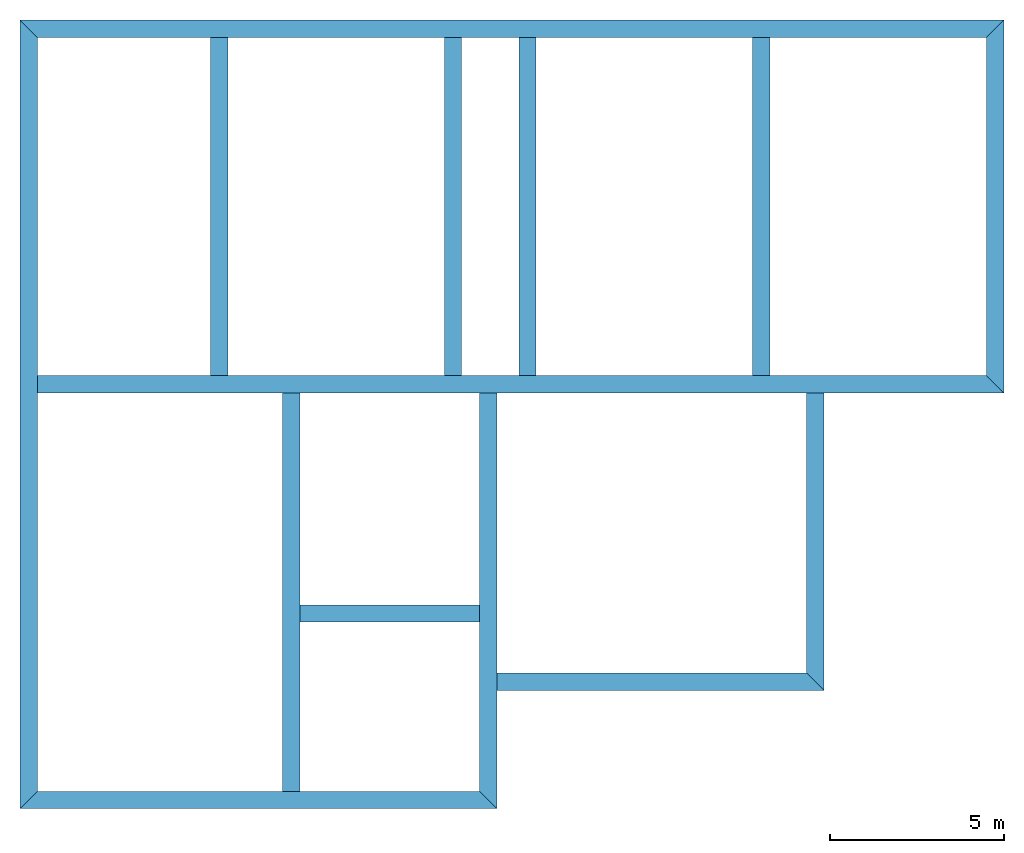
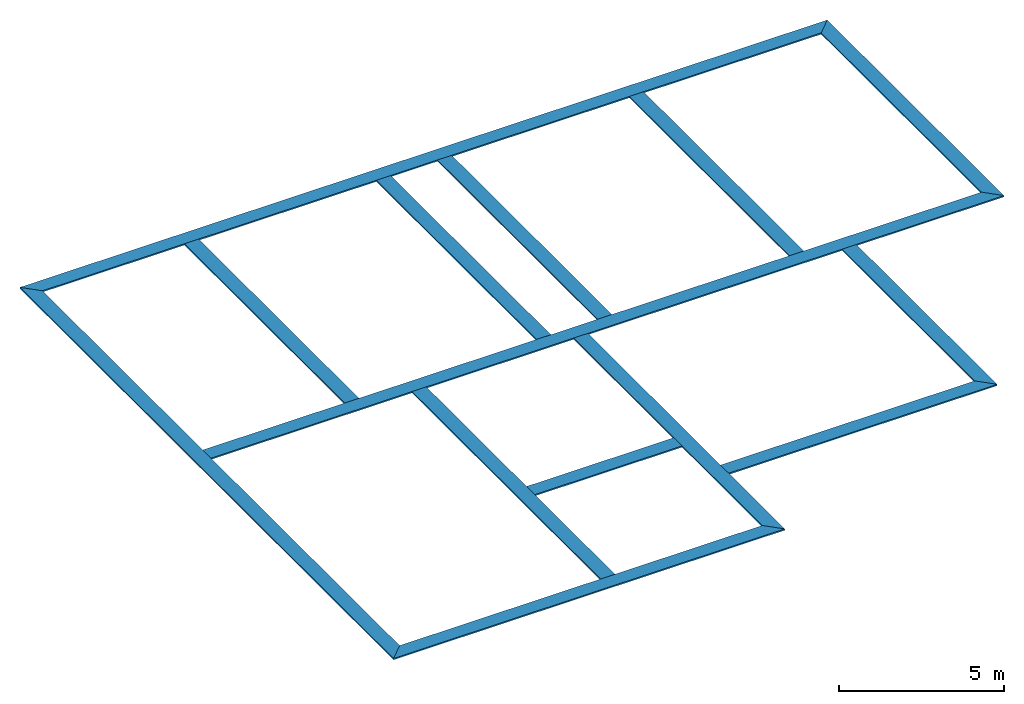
# One storey: 14 walls.
"""IFC2X3 building model written with IfcOpenShell, lengths in metres."""

from ifc_helpers import new_model, entity, si_unit, converted_unit, derived_unit, money_unit, direction, frame, origin_with_axes, place, context, subcontext, project, spatial, polyline, outline, extrude, material, layer, layer_set, layer_usage, type_object, element, save


model = new_model("IFC2X3")

# Units and contexts
model_context = context("Model", 3, precision=1e-05, world=origin_with_axes(), true_north=direction((0.0, 1.0)))
body_context = subcontext(model_context, "Body", "Model", "MODEL_VIEW")
ifc_project = project(units=[si_unit("LENGTHUNIT", "METRE"), si_unit("AREAUNIT", "SQUARE_METRE"), si_unit("VOLUMEUNIT", "CUBIC_METRE"), converted_unit("PLANEANGLEUNIT", "DEGREE", entity("IfcPlaneAngleMeasure", 0.0174532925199), si_unit("PLANEANGLEUNIT", "RADIAN"), dimensions=[0, 0, 0, 0, 0, 0, 0]), money_unit("CHF"), converted_unit("TIMEUNIT", "Year", entity("IfcTimeMeasure", 31556926.0), si_unit("TIMEUNIT", "SECOND"), dimensions=[0, 0, 1, 0, 0, 0, 0]), si_unit("MASSUNIT", "GRAM", prefix="KILO"), si_unit("THERMODYNAMICTEMPERATUREUNIT", "DEGREE_CELSIUS"), si_unit("LUMINOUSINTENSITYUNIT", "LUMEN"), si_unit("ENERGYUNIT", "JOULE", prefix="MEGA"), derived_unit("THERMALCONDUCTANCEUNIT", [(si_unit("POWERUNIT", "WATT"), 1), (si_unit("LENGTHUNIT", "METRE"), -1), (si_unit("THERMODYNAMICTEMPERATUREUNIT", "KELVIN"), -1)]), derived_unit("SPECIFICHEATCAPACITYUNIT", [(si_unit("ENERGYUNIT", "JOULE"), 1), (si_unit("MASSUNIT", "GRAM", prefix="KILO"), -1), (si_unit("THERMODYNAMICTEMPERATUREUNIT", "KELVIN"), -1)]), derived_unit("MASSDENSITYUNIT", [(si_unit("MASSUNIT", "GRAM", prefix="KILO"), 1), (si_unit("VOLUMEUNIT", "CUBIC_METRE"), -1)])], contexts=[model_context])

# Site, building, storey
site_placement = place(None, origin_with_axes())
site = spatial("IfcSite", under=ifc_project, at=site_placement, Name="Site", CompositionType="ELEMENT")
building_placement = place(site_placement, origin_with_axes())
building = spatial("IfcBuilding", under=site, at=building_placement, Name="Bâtiment", CompositionType="ELEMENT")
storey_placement = place(building_placement, frame((0.0, 0.0, -0.78), z_axis=(0.0, 0.0, 1.0), x_axis=(1.0, 0.0, 0.0)))
storey = spatial("IfcBuildingStorey", under=building, at=storey_placement, Name="Fonds de fouilles / béton de propreté", CompositionType="ELEMENT", Elevation=-0.78)

# Walls
ifc_material = material(Name="Béton maigre")
ifc_layer = layer(ifc_material, 0.5, ventilated="UNKNOWN")
ifc_layer_set = layer_set([ifc_layer], Name="Béton maigre 0.5")
ifc_layer_usage_1 = layer_usage(ifc_layer_set, "AXIS2", "POSITIVE", -0.25)
wall_type = type_object("IfcWallType", Name="Béton maigre 500", PredefinedType="NOTDEFINED")
wall_1_placement = place(storey_placement, frame((11.1494697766, 25.2201256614, 0.0), z_axis=(0.0, 0.0, 1.0), x_axis=(1.0, 0.0, 0.0)))
element("IfcWallStandardCase", 1, at=wall_1_placement, inside=storey, type_object=wall_type, material=ifc_layer_usage_1, Name="MUR_EXT-001", context=body_context, shape_type="SweptSolid", body=[
    extrude(outline(polyline([(0.25, -0.25), (27.52, -0.25), (28.02, 0.25), (-0.25, 0.25), (0.25, -0.25)])), origin_with_axes(), (0.0, 0.0, 1.0), 0.05),
])
ifc_layer_usage_2 = layer_usage(ifc_layer_set, "AXIS2", "POSITIVE", -0.25)
wall_2_placement = place(storey_placement, frame((38.9194697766, 25.2201256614, 0.0), z_axis=(0.0, 0.0, 1.0), x_axis=(0.0, -1.0, 0.0)))
element("IfcWallStandardCase", 2, at=wall_2_placement, inside=storey, type_object=wall_type, material=ifc_layer_usage_2, Name="MUR_EXT-002", context=body_context, shape_type="SweptSolid", body=[
    extrude(outline(polyline([(0.25, -0.25), (9.97012566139, -0.25), (10.4701256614, 0.25), (-0.25, 0.25), (0.25, -0.25)])), origin_with_axes(), (0.0, 0.0, 1.0), 0.05),
])
ifc_layer_usage_3 = layer_usage(ifc_layer_set, "AXIS2", "POSITIVE", -0.25)
wall_3_placement = place(storey_placement, frame((38.9194697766, 15.0, 0.0), z_axis=(0.0, 0.0, 1.0), x_axis=(-1.0, 0.0, 0.0)))
element("IfcWallStandardCase", 3, at=wall_3_placement, inside=storey, type_object=wall_type, material=ifc_layer_usage_3, Name="MUR_EXT-003", context=body_context, shape_type="SweptSolid", body=[
    extrude(outline(polyline([(0.25, -0.25), (27.52, -0.25), (27.52, 0.25), (-0.25, 0.25), (0.25, -0.25)])), origin_with_axes(), (0.0, 0.0, 1.0), 0.05),
])
ifc_layer_usage_4 = layer_usage(ifc_layer_set, "AXIS2", "POSITIVE", -0.25)
wall_4_placement = place(storey_placement, frame((33.7494697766, 15.0, 0.0), z_axis=(0.0, 0.0, 1.0), x_axis=(0.0, -1.0, 0.0)))
element("IfcWallStandardCase", 4, at=wall_4_placement, inside=storey, type_object=wall_type, material=ifc_layer_usage_4, Name="MUR_EXT-004", context=body_context, shape_type="SweptSolid", body=[
    extrude(outline(polyline([(0.25, -0.25), (8.28987433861, -0.25), (8.78987433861, 0.25), (0.25, 0.25), (0.25, -0.25)])), origin_with_axes(), (0.0, 0.0, 1.0), 0.05),
])
ifc_layer_usage_5 = layer_usage(ifc_layer_set, "AXIS2", "POSITIVE", -0.25)
wall_5_placement = place(storey_placement, frame((33.7494697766, 6.46012566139, 0.0), z_axis=(0.0, 0.0, 1.0), x_axis=(-1.0, 0.0, 0.0)))
element("IfcWallStandardCase", 5, at=wall_5_placement, inside=storey, type_object=wall_type, material=ifc_layer_usage_5, Name="MUR_EXT-005", context=body_context, shape_type="SweptSolid", body=[
    extrude(outline(polyline([(0.25, -0.25), (9.15, -0.25), (9.15, 0.25), (-0.25, 0.25), (0.25, -0.25)])), origin_with_axes(), (0.0, 0.0, 1.0), 0.05),
])
ifc_layer_usage_6 = layer_usage(ifc_layer_set, "AXIS2", "POSITIVE", -0.25)
wall_6_placement = place(storey_placement, frame((24.3494697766, 15.0, 0.0), z_axis=(0.0, 0.0, 1.0), x_axis=(0.0, -1.0, 0.0)))
element("IfcWallStandardCase", 6, at=wall_6_placement, inside=storey, type_object=wall_type, material=ifc_layer_usage_6, Name="MUR_EXT-006", context=body_context, shape_type="SweptSolid", body=[
    extrude(outline(polyline([(0.25, -0.25), (11.6898344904, -0.25), (12.1898344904, 0.25), (0.25, 0.25), (0.25, -0.25)])), origin_with_axes(), (0.0, 0.0, 1.0), 0.05),
])
ifc_layer_usage_7 = layer_usage(ifc_layer_set, "AXIS2", "POSITIVE", -0.25)
wall_7_placement = place(storey_placement, frame((24.3494697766, 3.06016550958, 0.0), z_axis=(0.0, 0.0, 1.0), x_axis=(-1.0, 0.0, 0.0)))
element("IfcWallStandardCase", 7, at=wall_7_placement, inside=storey, type_object=wall_type, material=ifc_layer_usage_7, Name="MUR_EXT-007", context=body_context, shape_type="SweptSolid", body=[
    extrude(outline(polyline([(0.25, -0.25), (12.95, -0.25), (13.45, 0.25), (-0.25, 0.25), (0.25, -0.25)])), origin_with_axes(), (0.0, 0.0, 1.0), 0.05),
])
ifc_layer_usage_8 = layer_usage(ifc_layer_set, "AXIS2", "POSITIVE", -0.25)
wall_8_placement = place(storey_placement, frame((11.1494697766, 3.06016550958, 0.0), z_axis=(0.0, 0.0, 1.0), x_axis=(0.0, 1.0, 0.0)))
element("IfcWallStandardCase", 8, at=wall_8_placement, inside=storey, type_object=wall_type, material=ifc_layer_usage_8, Name="MUR_EXT-008", context=body_context, shape_type="SweptSolid", body=[
    extrude(outline(polyline([(0.25, -0.25), (21.9099601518, -0.25), (22.4099601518, 0.25), (-0.25, 0.25), (0.25, -0.25)])), origin_with_axes(), (0.0, 0.0, 1.0), 0.05),
])
ifc_layer_usage_9 = layer_usage(ifc_layer_set, "AXIS2", "POSITIVE", -0.25)
wall_9_placement = place(storey_placement, frame((18.6894697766, 3.06016550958, 0.0), z_axis=(0.0, 0.0, 1.0), x_axis=(0.0, 1.0, 0.0)))
element("IfcWallStandardCase", 9, at=wall_9_placement, inside=storey, type_object=wall_type, material=ifc_layer_usage_9, Name="MUR_EXT-007", context=body_context, shape_type="SweptSolid", body=[
    extrude(outline(polyline([(0.25, -0.25), (11.6898344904, -0.25), (11.6898344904, 0.25), (0.25, 0.25), (0.25, -0.25)])), origin_with_axes(), (0.0, 0.0, 1.0), 0.05),
])
ifc_layer_usage_10 = layer_usage(ifc_layer_set, "AXIS2", "POSITIVE", -0.25)
wall_10_placement = place(storey_placement, frame((16.6194697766, 25.2201256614, 0.0), z_axis=(0.0, 0.0, 1.0), x_axis=(0.0, -1.0, 0.0)))
element("IfcWallStandardCase", 10, at=wall_10_placement, inside=storey, type_object=wall_type, material=ifc_layer_usage_10, Name="MUR_EXT-007", context=body_context, shape_type="SweptSolid", body=[
    extrude(outline(polyline([(0.25, -0.25), (9.97012566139, -0.25), (9.97012566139, 0.25), (0.25, 0.25), (0.25, -0.25)])), origin_with_axes(), (0.0, 0.0, 1.0), 0.05),
])
ifc_layer_usage_11 = layer_usage(ifc_layer_set, "AXIS2", "POSITIVE", -0.25)
wall_11_placement = place(storey_placement, frame((23.3394697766, 25.2201256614, 0.0), z_axis=(0.0, 0.0, 1.0), x_axis=(0.0, -1.0, 0.0)))
element("IfcWallStandardCase", 11, at=wall_11_placement, inside=storey, type_object=wall_type, material=ifc_layer_usage_11, Name="MUR_EXT-007", context=body_context, shape_type="SweptSolid", body=[
    extrude(outline(polyline([(0.25, -0.25), (9.97012566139, -0.25), (9.97012566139, 0.25), (0.25, 0.25), (0.25, -0.25)])), origin_with_axes(), (0.0, 0.0, 1.0), 0.05),
])
ifc_layer_usage_12 = layer_usage(ifc_layer_set, "AXIS2", "POSITIVE", -0.25)
wall_12_placement = place(storey_placement, frame((25.4794697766, 25.2201256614, 0.0), z_axis=(0.0, 0.0, 1.0), x_axis=(0.0, -1.0, 0.0)))
element("IfcWallStandardCase", 12, at=wall_12_placement, inside=storey, type_object=wall_type, material=ifc_layer_usage_12, Name="MUR_EXT-007", context=body_context, shape_type="SweptSolid", body=[
    extrude(outline(polyline([(0.25, -0.25), (9.97012566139, -0.25), (9.97012566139, 0.25), (0.25, 0.25), (0.25, -0.25)])), origin_with_axes(), (0.0, 0.0, 1.0), 0.05),
])
ifc_layer_usage_13 = layer_usage(ifc_layer_set, "AXIS2", "POSITIVE", -0.25)
wall_13_placement = place(storey_placement, frame((32.1994697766, 25.2201256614, 0.0), z_axis=(0.0, 0.0, 1.0), x_axis=(0.0, -1.0, 0.0)))
element("IfcWallStandardCase", 13, at=wall_13_placement, inside=storey, type_object=wall_type, material=ifc_layer_usage_13, Name="MUR_EXT-007", context=body_context, shape_type="SweptSolid", body=[
    extrude(outline(polyline([(0.25, -0.25), (9.97012566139, -0.25), (9.97012566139, 0.25), (0.25, 0.25), (0.25, -0.25)])), origin_with_axes(), (0.0, 0.0, 1.0), 0.05),
])
ifc_layer_usage_14 = layer_usage(ifc_layer_set, "AXIS2", "POSITIVE", -0.25)
wall_14_placement = place(storey_placement, frame((18.6894697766, 8.42012566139, 0.0), z_axis=(0.0, 0.0, 1.0), x_axis=(1.0, 0.0, 0.0)))
element("IfcWallStandardCase", 14, at=wall_14_placement, inside=storey, type_object=wall_type, material=ifc_layer_usage_14, Name="MUR_EXT-007", context=body_context, shape_type="SweptSolid", body=[
    extrude(outline(polyline([(0.25, -0.25), (5.41, -0.25), (5.41, 0.25), (0.25, 0.25), (0.25, -0.25)])), origin_with_axes(), (0.0, 0.0, 1.0), 0.05),
])

save(model, "model.ifc")
